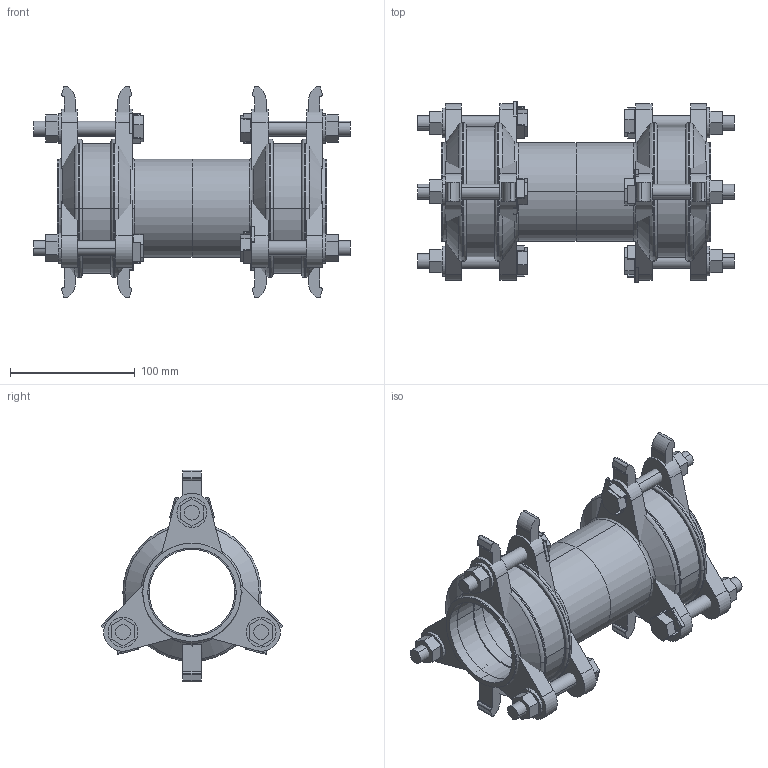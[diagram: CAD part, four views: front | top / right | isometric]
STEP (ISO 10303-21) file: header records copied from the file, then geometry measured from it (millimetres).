
FILE_DESCRIPTION(('STEP AP214'),'1');
FILE_NAME('MJ000030 DN 50.STP','2015-02-06T10:55:21',(' '),(' '),'Spatial InterOp 3D',' ',' ');
FILE_SCHEMA(('automotive_design'));
Length unit declared in the file: millimetre
Products named in the file (66): 3D-Objekt
Bounding box: 254 x 145.93 x 170 mm (x, y, z)
Volume: 941200.7 mm3; surface area: 345295.3 mm2
Topology: 66 solids, 66 shells, 526 faces, 1178 edges, 784 vertices
Faces by surface type: plane 352, cylinder 134, torus 24, cone 16
Entity records: 20426 total; most frequent: DIRECTION 2730, CARTESIAN_POINT 2554, ORIENTED_EDGE 2356, EDGE_CURVE 1178, AXIS2_PLACEMENT_3D 960, LINE 810, VECTOR 810, VERTEX_POINT 784
